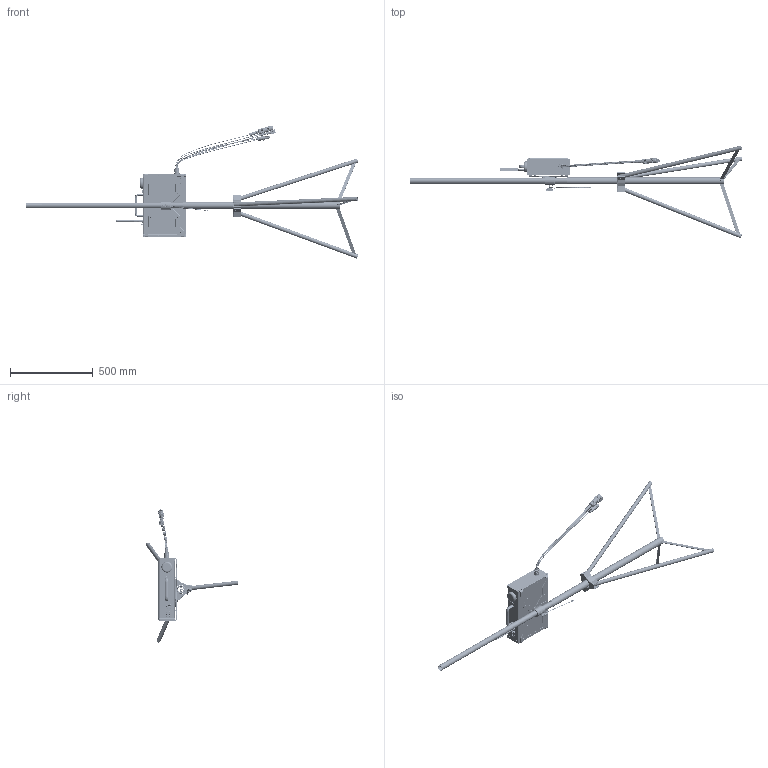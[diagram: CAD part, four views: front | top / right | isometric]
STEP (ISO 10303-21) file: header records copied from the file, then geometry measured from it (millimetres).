
FILE_DESCRIPTION(/* description */ (''),/* implementation_level */ '2;1');
FILE_NAME(/* name */ 'C:\Users\fst6\git\PCS\items\PCS_Unit\items\3d_PCS\variants\BASIC\3d\releases\BASIC-221210_website\000 Ensamblaje 3d_PCS - BASIC_dummy.stp',/* time_stamp */ '2026-09-24T08:57:34+02:00',/* author */ ('fst6'),/* organization */ (''),/* preprocessor_version */ 'ST-DEVELOPER v16.13',/* originating_system */ 'Autodesk Inventor 2018',/* authorisation */ '');
FILE_SCHEMA (('AUTOMOTIVE_DESIGN { 1 0 10303 214 3 1 1 }'));
Products named in the file (1): 000 Ensamblaje 3d_PCS -  BASIC_dummy
Bounding box: 2009.16 x 559.71 x 805.13 mm (x, y, z)
Volume: 1946829.6 mm3; surface area: 2064454.6 mm2
Topology: 90 solids, 303 shells, 8119 faces, 22460 edges, 15231 vertices
Faces by surface type: plane 3454, cylinder 2595, bspline 926, cone 849, torus 162, sphere 133
Full cylindrical faces by diameter (mm): 0.7 x136, 0.917 x2, 0.92 x4, 1 x107, 1.1 x5, 1.15 x136, 1.3 x2, 1.442 x2, 1.981 x1, 2 x3, 2.013 x4, 2.459 x43, 2.5 x8, 3 x7, 3.1 x1, 3.219 x1, 3.242 x4, 3.4 x41, 3.5 x5, 3.509 x1, 4 x6, 4.1 x2, 4.134 x5, 4.22 x8, 4.3 x1, 4.5 x4, 4.63 x2, 4.8 x1, 4.917 x2, 5 x43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
Entity records: 623405 total; most frequent: CARTESIAN_POINT 417780, ORIENTED_EDGE 40295, DIRECTION 39880, EDGE_CURVE 20613, AXIS2_PLACEMENT_3D 15919, VERTEX_POINT 14563, EDGE_LOOP 10363, ADVANCED_FACE 8115
